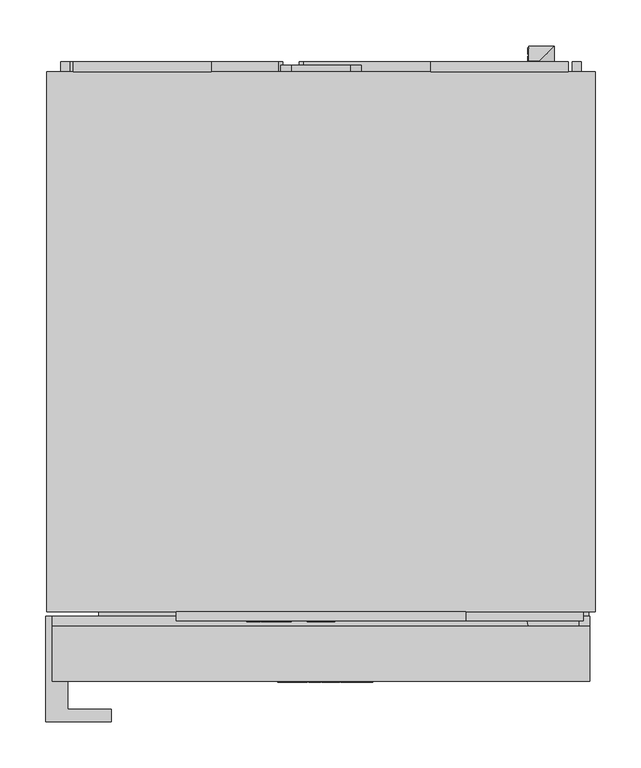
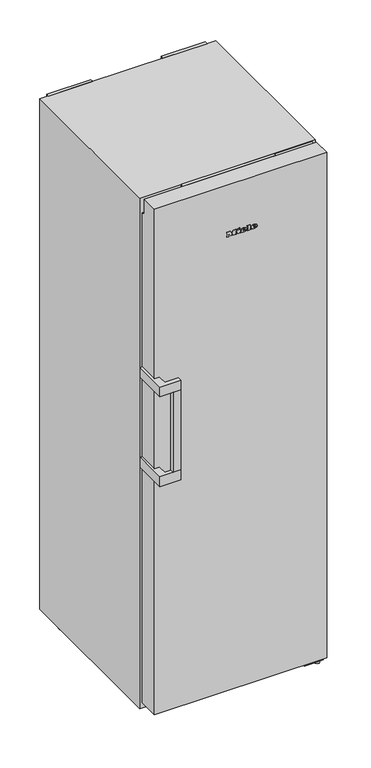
"""IFC4 building model written with IfcOpenShell, lengths in millimetres: proxy geometry, 12555680_CN_KS4783ED_BST : 36478353_CN_12555680_KS4783ED_BST."""

from ifc_helpers import new_model, si_unit, point, frame, frame_2d, origin, origin_with_axes, place, context, project, spatial, polyline, circle_curve, ellipse_curve, trimmed, segment, composite_curve, outline, extrude, faceted_brep, source, transform, mapped, element, save
from ifc_brep_helpers import plane_surface, cylinder_surface, revolved_surface, extruded_surface, advanced_brep


def specialty_equipment_43486b18(model_context):
    return source(origin(), model_context, "Body", "SolidModel", [
        extrude(outline(polyline([(15.0, -609.5), (-15.0, -609.5), (-15.0, -608.5), (15.0, -608.5), (15.0, -609.5)])), frame((0.0, 0.0, 1810.5), z_axis=(0.0, 0.0, 1.0), x_axis=(1.0, 0.0, 0.0)), (0.0, 0.0, 1.0), 31.0),
        extrude(outline(polyline([(105.0, -608.5), (-105.0, -608.5), (-105.0, -606.5), (105.0, -606.5), (105.0, -608.5)])), frame((0.0, 0.0, 1806.5), z_axis=(0.0, 0.0, 1.0), x_axis=(1.0, 0.0, 0.0)), (0.0, 0.0, 1.0), 39.0),
        faceted_brep([(157.5, -598.5, 1802.0), (157.5, -608.5, 1802.0), (-157.5, -608.5, 1802.0), (-157.5, -598.5, 1802.0), (157.5, -598.5, 1850.0), (-157.5, -598.5, 1850.0), (-157.5, -608.5, 1850.0), (157.5, -608.5, 1850.0), (-105.0, -608.5, 1845.5), (105.0, -608.5, 1845.5), (105.0, -608.5, 1806.5), (-105.0, -608.5, 1806.5), (105.0, -606.5, 1845.5), (-105.0, -606.5, 1845.5), (-105.0, -606.5, 1806.5), (105.0, -606.5, 1806.5)], [[[0, 1, 2, 3]], [[4, 5, 6, 7]], [[0, 3, 5, 4]], [[3, 2, 6, 5]], [[2, 1, 7, 6], [8, 9, 10, 11]], [[1, 0, 4, 7]], [[12, 13, 14, 15]], [[13, 12, 9, 8]], [[14, 13, 8, 11]], [[15, 14, 11, 10]], [[12, 15, 10, 9]]]),
        advanced_brep(
        [(44.846, -675.5, 1672.029), (44.846, -675.5, 1673.746), (56.219, -675.5, 1673.746), (36.431, -675.5, 1673.746), (41.106, -675.5, 1668.0), (55.93, -675.5, 1672.029), (50.796, -675.5, 1672.029), (46.75, -675.5, 1670.125), (44.846, -675.5, 1675.922), (44.846, -675.5, 1677.775), (47.753, -675.5, 1677.775), (47.753, -675.5, 1675.922), (44.846, -674.5, 1672.029), (46.75, -674.5, 1670.125), (50.796, -674.5, 1672.029), (55.93, -674.5, 1672.029), (41.106, -674.5, 1668.0), (36.431, -674.5, 1673.746), (56.219, -674.5, 1673.746), (44.846, -674.5, 1673.746), (44.846, -674.5, 1675.922), (47.753, -674.5, 1675.922), (47.753, -674.5, 1677.775), (44.846, -674.5, 1677.775)],
        [
            (0, 1),
            (1, 2),
            (2, 3, ellipse_curve(frame((46.325, -675.5, 1673.746), z_axis=(0.0, -1.0, 0.0), x_axis=(-1.0, 0.0, 0.0)), 9.894, 8.177)),
            (3, 4, circle_curve(frame((43.0100927, -675.5, 1674.324), z_axis=(0.0, -1.0, 0.0), x_axis=(0.0, 0.0, -1.0)), 6.6044337)),
            (4, 5, circle_curve(frame((46.1269364, -675.5, 1678.812), z_axis=(0.0, -1.0, 0.0), x_axis=(0.0, 0.0, -1.0)), 11.9209541)),
            (5, 6),
            (6, 7, circle_curve(frame((47.581, -675.5, 1673.61), z_axis=(0.0, 1.0, 0.0), x_axis=(0.0, 0.0, -1.0)), 3.5827065)),
            (7, 0, circle_curve(frame((46.75, -675.5, 1672.029), z_axis=(0.0, 1.0, 0.0), x_axis=(0.0, 0.0, -1.0)), 1.904)),
            (8, 9),
            (9, 10, circle_curve(frame((46.2995, -675.5, 1677.775), z_axis=(0.0, 1.0, 0.0), x_axis=(0.0, 0.0, -1.0)), 1.4535)),
            (10, 11),
            (11, 8),
            (12, 13, circle_curve(frame((46.75, -674.5, 1672.029), z_axis=(0.0, -1.0, 0.0), x_axis=(0.0, 0.0, -1.0)), 1.904)),
            (13, 14, circle_curve(frame((47.581, -674.5, 1673.61), z_axis=(0.0, -1.0, 0.0), x_axis=(0.0, 0.0, -1.0)), 3.5827065)),
            (14, 15),
            (15, 16, circle_curve(frame((46.1269364, -674.5, 1678.812), z_axis=(0.0, 1.0, 0.0), x_axis=(0.0, 0.0, -1.0)), 11.9209541)),
            (16, 17, circle_curve(frame((43.0100927, -674.5, 1674.324), z_axis=(0.0, 1.0, 0.0), x_axis=(0.0, 0.0, -1.0)), 6.6044337)),
            (17, 18, ellipse_curve(frame((46.325, -674.5, 1673.746), z_axis=(0.0, 1.0, 0.0), x_axis=(-1.0, 0.0, 0.0)), 9.894, 8.177)),
            (18, 19),
            (19, 12),
            (20, 21),
            (21, 22),
            (22, 23, circle_curve(frame((46.2995, -674.5, 1677.775), z_axis=(0.0, -1.0, 0.0), x_axis=(0.0, 0.0, -1.0)), 1.4535)),
            (23, 20),
            (0, 12),
            (19, 1),
            (18, 2),
            (5, 15),
            (14, 6),
            (17, 3),
            (13, 7),
            (16, 4),
            (8, 20),
            (23, 9),
            (22, 10),
            (21, 11),
        ],
        [
            plane_surface(frame((44.846, -675.5, 1673.746), z_axis=(0.0, -1.0, 0.0), x_axis=(0.0, 0.0, 1.0))),
            plane_surface(frame((44.846, -674.5, 1673.746), z_axis=(0.0, 1.0, 0.0), x_axis=(0.0, 0.0, -1.0))),
            plane_surface(frame((44.846, -675.5, 1672.029), z_axis=(1.0, 0.0, 0.0), x_axis=(0.0, 1.0, 0.0))),
            plane_surface(frame((44.846, -675.5, 1673.746), z_axis=(0.0, 0.0, -1.0), x_axis=(0.0, 1.0, 0.0))),
            plane_surface(frame((55.93, -675.5, 1672.029), z_axis=(0.0, 0.0, 1.0), x_axis=(0.0, 1.0, 0.0))),
            extruded_surface(trimmed(ellipse_curve(frame((46.325, -673.5, 1673.746), z_axis=(0.0, -1.0, 0.0), x_axis=(-1.0, 0.0, 0.0)), 9.894, 8.177), [point((56.219, -673.5, 1673.746))], [point((36.431, -673.5, 1673.746))], True, "CARTESIAN"), (0.0, -1.0, 0.0), 1.0),
            revolved_surface(polyline([(47.581, -674.5, 1670.0272934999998), (47.581, -675.5, 1670.0272934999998)]), (47.581, -674.5, 1673.61), (0.0, 1.0, 0.0)),
            revolved_surface(polyline([(46.75, -674.5, 1670.125), (46.75, -675.5, 1670.125)]), (46.75, -674.5, 1672.029), (0.0, 1.0, 0.0)),
            cylinder_surface(frame((43.0100927, -674.5, 1674.324), z_axis=(0.0, -1.0, 0.0), x_axis=(0.0, 0.0, -1.0)), 6.6044337),
            cylinder_surface(frame((46.1269364, -674.5, 1678.812), z_axis=(0.0, -1.0, 0.0), x_axis=(0.0, 0.0, -1.0)), 11.9209541),
            plane_surface(frame((44.846, -675.5, 1675.922), z_axis=(1.0, 0.0, 0.0), x_axis=(0.0, 1.0, 0.0))),
            revolved_surface(polyline([(46.2995, -674.5, 1676.3215), (46.2995, -675.5, 1676.3215)]), (46.2995, -674.5, 1677.775), (0.0, 1.0, 0.0)),
            plane_surface(frame((47.753, -675.5, 1677.775), z_axis=(-1.0, 0.0, 0.0), x_axis=(0.0, 1.0, 0.0))),
            plane_surface(frame((47.753, -675.5, 1675.922), z_axis=(0.0, 0.0, 1.0), x_axis=(0.0, 1.0, 0.0))),
        ],
        [
            (0, [[1, 2, 3, 4, 5, 6, 7, 8], [9, 10, 11, 12]]),
            (1, [[13, 14, 15, 16, 17, 18, 19, 20], [21, 22, 23, 24]]),
            (2, [[-1, 25, -20, 26]]),
            (3, [[-2, -26, -19, 27]]),
            (4, [[-6, 28, -15, 29]]),
            (5, [[-3, -27, -18, 30]]),
            (6, [[-7, -29, -14, 31]]),
            (7, [[-8, -31, -13, -25]]),
            (8, [[-4, -30, -17, 32]]),
            (9, [[-5, -32, -16, -28]]),
            (10, [[-9, 33, -24, 34]]),
            (11, [[-10, -34, -23, 35]]),
            (12, [[-11, -35, -22, 36]]),
            (13, [[-12, -36, -21, -33]]),
        ],
    ),
        advanced_brep(
        [(9.367, -675.5, 1672.029), (9.367, -675.5, 1673.746), (20.74, -675.5, 1673.746), (0.952, -675.5, 1673.746), (5.627, -675.5, 1668.0), (20.451, -675.5, 1672.029), (15.317, -675.5, 1672.029), (11.271, -675.5, 1670.125), (9.367, -675.5, 1675.922), (9.367, -675.5, 1677.775), (12.274, -675.5, 1677.775), (12.274, -675.5, 1675.922), (9.367, -674.5, 1672.029), (11.271, -674.5, 1670.125), (15.317, -674.5, 1672.029), (20.451, -674.5, 1672.029), (5.627, -674.5, 1668.0), (0.952, -674.5, 1673.746), (20.74, -674.5, 1673.746), (9.367, -674.5, 1673.746), (9.367, -674.5, 1675.922), (12.274, -674.5, 1675.922), (12.274, -674.5, 1677.775), (9.367, -674.5, 1677.775)],
        [
            (0, 1),
            (1, 2),
            (2, 3, ellipse_curve(frame((10.846, -675.5, 1673.746), z_axis=(0.0, -1.0, 0.0), x_axis=(-1.0, 0.0, 0.0)), 9.894, 8.177)),
            (3, 4, circle_curve(frame((7.5310927, -675.5, 1674.324), z_axis=(0.0, -1.0, 0.0), x_axis=(0.0, 0.0, -1.0)), 6.6044337)),
            (4, 5, circle_curve(frame((10.6479364, -675.5, 1678.812), z_axis=(0.0, -1.0, 0.0), x_axis=(0.0, 0.0, -1.0)), 11.9209541)),
            (5, 6),
            (6, 7, circle_curve(frame((12.102, -675.5, 1673.61), z_axis=(0.0, 1.0, 0.0), x_axis=(0.0, 0.0, -1.0)), 3.5827065)),
            (7, 0, circle_curve(frame((11.271, -675.5, 1672.029), z_axis=(0.0, 1.0, 0.0), x_axis=(0.0, 0.0, -1.0)), 1.904)),
            (8, 9),
            (9, 10, circle_curve(frame((10.8205, -675.5, 1677.775), z_axis=(0.0, 1.0, 0.0), x_axis=(0.0, 0.0, -1.0)), 1.4535)),
            (10, 11),
            (11, 8),
            (12, 13, circle_curve(frame((11.271, -674.5, 1672.029), z_axis=(0.0, -1.0, 0.0), x_axis=(0.0, 0.0, -1.0)), 1.904)),
            (13, 14, circle_curve(frame((12.102, -674.5, 1673.61), z_axis=(0.0, -1.0, 0.0), x_axis=(0.0, 0.0, -1.0)), 3.5827065)),
            (14, 15),
            (15, 16, circle_curve(frame((10.6479364, -674.5, 1678.812), z_axis=(0.0, 1.0, 0.0), x_axis=(0.0, 0.0, -1.0)), 11.9209541)),
            (16, 17, circle_curve(frame((7.5310927, -674.5, 1674.324), z_axis=(0.0, 1.0, 0.0), x_axis=(0.0, 0.0, -1.0)), 6.6044337)),
            (17, 18, ellipse_curve(frame((10.846, -674.5, 1673.746), z_axis=(0.0, 1.0, 0.0), x_axis=(-1.0, 0.0, 0.0)), 9.894, 8.177)),
            (18, 19),
            (19, 12),
            (20, 21),
            (21, 22),
            (22, 23, circle_curve(frame((10.8205, -674.5, 1677.775), z_axis=(0.0, -1.0, 0.0), x_axis=(0.0, 0.0, -1.0)), 1.4535)),
            (23, 20),
            (0, 12),
            (19, 1),
            (18, 2),
            (5, 15),
            (14, 6),
            (17, 3),
            (13, 7),
            (16, 4),
            (8, 20),
            (23, 9),
            (22, 10),
            (21, 11),
        ],
        [
            plane_surface(frame((9.367, -675.5, 1673.746), z_axis=(0.0, -1.0, 0.0), x_axis=(0.0, 0.0, 1.0))),
            plane_surface(frame((9.367, -674.5, 1673.746), z_axis=(0.0, 1.0, 0.0), x_axis=(0.0, 0.0, -1.0))),
            plane_surface(frame((9.367, -675.5, 1672.029), z_axis=(1.0, 0.0, 0.0), x_axis=(0.0, 1.0, 0.0))),
            plane_surface(frame((9.367, -675.5, 1673.746), z_axis=(0.0, 0.0, -1.0), x_axis=(0.0, 1.0, 0.0))),
            plane_surface(frame((20.451, -675.5, 1672.029), z_axis=(0.0, 0.0, 1.0), x_axis=(0.0, 1.0, 0.0))),
            extruded_surface(trimmed(ellipse_curve(frame((10.846, -673.5, 1673.746), z_axis=(0.0, -1.0, 0.0), x_axis=(-1.0, 0.0, 0.0)), 9.894, 8.177), [point((20.74, -673.5, 1673.746))], [point((0.952, -673.5, 1673.746))], True, "CARTESIAN"), (0.0, -1.0, 0.0), 1.0),
            revolved_surface(polyline([(12.102, -674.5, 1670.0272934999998), (12.102, -675.5, 1670.0272934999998)]), (12.102, -674.5, 1673.61), (0.0, 1.0, 0.0)),
            revolved_surface(polyline([(11.271, -674.5, 1670.125), (11.271, -675.5, 1670.125)]), (11.271, -674.5, 1672.029), (0.0, 1.0, 0.0)),
            cylinder_surface(frame((7.5310927, -674.5, 1674.324), z_axis=(0.0, -1.0, 0.0), x_axis=(0.0, 0.0, -1.0)), 6.6044337),
            cylinder_surface(frame((10.6479364, -674.5, 1678.812), z_axis=(0.0, -1.0, 0.0), x_axis=(0.0, 0.0, -1.0)), 11.9209541),
            plane_surface(frame((9.367, -675.5, 1675.922), z_axis=(1.0, 0.0, 0.0), x_axis=(0.0, 1.0, 0.0))),
            revolved_surface(polyline([(10.8205, -674.5, 1676.3215), (10.8205, -675.5, 1676.3215)]), (10.8205, -674.5, 1677.775), (0.0, 1.0, 0.0)),
            plane_surface(frame((12.274, -675.5, 1677.775), z_axis=(-1.0, 0.0, 0.0), x_axis=(0.0, 1.0, 0.0))),
            plane_surface(frame((12.274, -675.5, 1675.922), z_axis=(0.0, 0.0, 1.0), x_axis=(0.0, 1.0, 0.0))),
        ],
        [
            (0, [[1, 2, 3, 4, 5, 6, 7, 8], [9, 10, 11, 12]]),
            (1, [[13, 14, 15, 16, 17, 18, 19, 20], [21, 22, 23, 24]]),
            (2, [[-1, 25, -20, 26]]),
            (3, [[-2, -26, -19, 27]]),
            (4, [[-6, 28, -15, 29]]),
            (5, [[-3, -27, -18, 30]]),
            (6, [[-7, -29, -14, 31]]),
            (7, [[-8, -31, -13, -25]]),
            (8, [[-4, -30, -17, 32]]),
            (9, [[-5, -32, -16, -28]]),
            (10, [[-9, 33, -24, 34]]),
            (11, [[-10, -34, -23, 35]]),
            (12, [[-11, -35, -22, 36]]),
            (13, [[-12, -36, -21, -33]]),
        ],
    ),
        extrude(outline(polyline([(1683.997, -9.214), (1681.243, -7.922), (1683.929, -2.159), (1686.683, -3.434), (1683.997, -9.214)])), frame((0.0, -675.5, 0.0), z_axis=(0.0, 1.0, 0.0), x_axis=(0.0, 0.0, 1.0)), (0.0, 0.0, 1.0), 1.0),
        extrude(outline(polyline([(1680.869, -13.413), (1677.826, -13.413), (1677.826, -11.39), (1670.856, -11.39), (1670.856, -13.413), (1668.0, -13.413), (1668.0, 0.0), (1670.856, 0.0), (1670.856, -1.972), (1680.869, -1.972), (1680.869, -13.413)])), frame((0.0, -675.5, 0.0), z_axis=(0.0, 1.0, 0.0), x_axis=(0.0, 0.0, 1.0)), (0.0, 0.0, 1.0), 1.0),
        extrude(outline(polyline([(1682.229, 21.692), (1682.229, 23.732), (1670.856, 23.732), (1670.856, 21.692), (1668.0, 21.692), (1668.0, 35.479), (1670.856, 35.479), (1670.856, 33.388), (1685.0, 33.388), (1685.0, 21.692), (1682.229, 21.692)])), frame((0.0, -675.5, 0.0), z_axis=(0.0, 1.0, 0.0), x_axis=(0.0, 0.0, 1.0)), (0.0, 0.0, 1.0), 1.0),
        extrude(outline(polyline([(1682.229, -47.294), (1682.229, -45.237), (1670.856, -45.237), (1670.856, -47.294), (1668.0, -47.294), (1668.0, -39.814), (1670.856, -39.814), (1670.856, -41.854), (1678.0301247, -41.854), (1668.0, -34.255), (1678.4402223, -26.622), (1670.856, -26.622), (1670.856, -28.713), (1668.0, -28.713), (1668.0, -15.147), (1670.856, -15.147), (1670.856, -17.306), (1682.229, -17.306), (1682.229, -15.147), (1685.0, -15.147), (1685.0, -25.5), (1678.625, -30.464), (1685.0, -35.445), (1685.0, -47.294), (1682.229, -47.294)])), frame((0.0, -675.5, 0.0), z_axis=(0.0, 1.0, 0.0), x_axis=(0.0, 0.0, 1.0)), (0.0, 0.0, 1.0), 1.0),
        advanced_brep(
        [(-37.64, -609.5, 1828.896), (-37.64, -609.5, 1829.704), (-32.288, -609.5, 1829.704), (-41.6, -609.5, 1829.704), (-39.4, -609.5, 1827.0), (-32.424, -609.5, 1828.896), (-34.84, -609.5, 1828.896), (-36.744, -609.5, 1828.0), (-37.64, -609.5, 1830.728), (-37.64, -609.5, 1831.6), (-36.272, -609.5, 1831.6), (-36.272, -609.5, 1830.728), (-37.64, -608.5, 1828.896), (-36.744, -608.5, 1828.0), (-34.84, -608.5, 1828.896), (-32.424, -608.5, 1828.896), (-39.4, -608.5, 1827.0), (-41.6, -608.5, 1829.704), (-32.288, -608.5, 1829.704), (-37.64, -608.5, 1829.704), (-37.64, -608.5, 1830.728), (-36.272, -608.5, 1830.728), (-36.272, -608.5, 1831.6), (-37.64, -608.5, 1831.6)],
        [
            (0, 1),
            (1, 2),
            (2, 3, ellipse_curve(frame((-36.944, -609.5, 1829.704), z_axis=(0.0, -1.0, 0.0), x_axis=(-1.0, 0.0, 0.0)), 4.656, 3.848)),
            (3, 4, circle_curve(frame((-38.5039564, -609.5, 1829.976), z_axis=(0.0, -1.0, 0.0), x_axis=(0.0, 0.0, -1.0)), 3.1079688)),
            (4, 5, circle_curve(frame((-37.0372064, -609.5, 1832.088), z_axis=(0.0, -1.0, 0.0), x_axis=(0.0, 0.0, -1.0)), 5.6098607)),
            (5, 6),
            (6, 7, circle_curve(frame((-36.3529412, -609.5, 1829.64), z_axis=(0.0, 1.0, 0.0), x_axis=(0.0, 0.0, -1.0)), 1.6859795)),
            (7, 0, circle_curve(frame((-36.744, -609.5, 1828.896), z_axis=(0.0, 1.0, 0.0), x_axis=(0.0, 0.0, -1.0)), 0.896)),
            (8, 9),
            (9, 10, circle_curve(frame((-36.956, -609.5, 1831.6), z_axis=(0.0, 1.0, 0.0), x_axis=(0.0, 0.0, -1.0)), 0.684)),
            (10, 11),
            (11, 8),
            (12, 13, circle_curve(frame((-36.744, -608.5, 1828.896), z_axis=(0.0, -1.0, 0.0), x_axis=(0.0, 0.0, -1.0)), 0.896)),
            (13, 14, circle_curve(frame((-36.3529412, -608.5, 1829.64), z_axis=(0.0, -1.0, 0.0), x_axis=(0.0, 0.0, -1.0)), 1.6859795)),
            (14, 15),
            (15, 16, circle_curve(frame((-37.0372064, -608.5, 1832.088), z_axis=(0.0, 1.0, 0.0), x_axis=(0.0, 0.0, -1.0)), 5.6098607)),
            (16, 17, circle_curve(frame((-38.5039564, -608.5, 1829.976), z_axis=(0.0, 1.0, 0.0), x_axis=(0.0, 0.0, -1.0)), 3.1079688)),
            (17, 18, ellipse_curve(frame((-36.944, -608.5, 1829.704), z_axis=(0.0, 1.0, 0.0), x_axis=(-1.0, 0.0, 0.0)), 4.656, 3.848)),
            (18, 19),
            (19, 12),
            (20, 21),
            (21, 22),
            (22, 23, circle_curve(frame((-36.956, -608.5, 1831.6), z_axis=(0.0, -1.0, 0.0), x_axis=(0.0, 0.0, -1.0)), 0.684)),
            (23, 20),
            (0, 12),
            (19, 1),
            (18, 2),
            (5, 15),
            (14, 6),
            (17, 3),
            (13, 7),
            (16, 4),
            (8, 20),
            (23, 9),
            (22, 10),
            (21, 11),
        ],
        [
            plane_surface(frame((-37.64, -609.5, 1829.704), z_axis=(0.0, -1.0, 0.0), x_axis=(0.0, 0.0, 1.0))),
            plane_surface(frame((-37.64, -608.5, 1829.704), z_axis=(0.0, 1.0, 0.0), x_axis=(0.0, 0.0, -1.0))),
            plane_surface(frame((-37.64, -609.5, 1828.896), z_axis=(1.0, 0.0, 0.0), x_axis=(0.0, 1.0, 0.0))),
            plane_surface(frame((-37.64, -609.5, 1829.704), z_axis=(0.0, 0.0, -1.0), x_axis=(0.0, 1.0, 0.0))),
            plane_surface(frame((-32.424, -609.5, 1828.896), z_axis=(0.0, 0.0, 1.0), x_axis=(0.0, 1.0, 0.0))),
            extruded_surface(trimmed(ellipse_curve(frame((-36.944, -607.5, 1829.704), z_axis=(0.0, -1.0, 0.0), x_axis=(-1.0, 0.0, 0.0)), 4.656, 3.848), [point((-32.288, -607.5, 1829.704))], [point((-41.6, -607.5, 1829.704))], True, "CARTESIAN"), (0.0, -1.0, 0.0), 1.0),
            revolved_surface(polyline([(-36.3529412, -608.5, 1827.9540205), (-36.3529412, -609.5, 1827.9540205)]), (-36.3529412, -608.5, 1829.64), (0.0, 1.0, 0.0)),
            revolved_surface(polyline([(-36.744, -608.5, 1828.0), (-36.744, -609.5, 1828.0)]), (-36.744, -608.5, 1828.896), (0.0, 1.0, 0.0)),
            cylinder_surface(frame((-38.5039564, -608.5, 1829.976), z_axis=(0.0, -1.0, 0.0), x_axis=(0.0, 0.0, -1.0)), 3.1079688),
            cylinder_surface(frame((-37.0372064, -608.5, 1832.088), z_axis=(0.0, -1.0, 0.0), x_axis=(0.0, 0.0, -1.0)), 5.6098607),
            plane_surface(frame((-37.64, -609.5, 1830.728), z_axis=(1.0, 0.0, 0.0), x_axis=(0.0, 1.0, 0.0))),
            revolved_surface(polyline([(-36.956, -608.5, 1830.916), (-36.956, -609.5, 1830.916)]), (-36.956, -608.5, 1831.6), (0.0, 1.0, 0.0)),
            plane_surface(frame((-36.272, -609.5, 1831.6), z_axis=(-1.0, 0.0, 0.0), x_axis=(0.0, 1.0, 0.0))),
            plane_surface(frame((-36.272, -609.5, 1830.728), z_axis=(0.0, 0.0, 1.0), x_axis=(0.0, 1.0, 0.0))),
        ],
        [
            (0, [[1, 2, 3, 4, 5, 6, 7, 8], [9, 10, 11, 12]]),
            (1, [[13, 14, 15, 16, 17, 18, 19, 20], [21, 22, 23, 24]]),
            (2, [[-1, 25, -20, 26]]),
            (3, [[-2, -26, -19, 27]]),
            (4, [[-6, 28, -15, 29]]),
            (5, [[-3, -27, -18, 30]]),
            (6, [[-7, -29, -14, 31]]),
            (7, [[-8, -31, -13, -25]]),
            (8, [[-4, -30, -17, 32]]),
            (9, [[-5, -32, -16, -28]]),
            (10, [[-9, 33, -24, 34]]),
            (11, [[-10, -34, -23, 35]]),
            (12, [[-11, -35, -22, 36]]),
            (13, [[-12, -36, -21, -33]]),
        ],
    ),
        advanced_brep(
        [(-54.336, -609.5, 1828.896), (-54.336, -609.5, 1829.704), (-48.984, -609.5, 1829.704), (-58.296, -609.5, 1829.704), (-56.096, -609.5, 1827.0), (-49.12, -609.5, 1828.896), (-51.536, -609.5, 1828.896), (-53.44, -609.5, 1828.0), (-54.336, -609.5, 1830.728), (-54.336, -609.5, 1831.6), (-52.968, -609.5, 1831.6), (-52.968, -609.5, 1830.728), (-54.336, -608.5, 1828.896), (-53.44, -608.5, 1828.0), (-51.536, -608.5, 1828.896), (-49.12, -608.5, 1828.896), (-56.096, -608.5, 1827.0), (-58.296, -608.5, 1829.704), (-48.984, -608.5, 1829.704), (-54.336, -608.5, 1829.704), (-54.336, -608.5, 1830.728), (-52.968, -608.5, 1830.728), (-52.968, -608.5, 1831.6), (-54.336, -608.5, 1831.6)],
        [
            (0, 1),
            (1, 2),
            (2, 3, ellipse_curve(frame((-53.64, -609.5, 1829.704), z_axis=(0.0, -1.0, 0.0), x_axis=(-1.0, 0.0, 0.0)), 4.656, 3.848)),
            (3, 4, circle_curve(frame((-55.1999564, -609.5, 1829.976), z_axis=(0.0, -1.0, 0.0), x_axis=(0.0, 0.0, -1.0)), 3.1079688)),
            (4, 5, circle_curve(frame((-53.7332064, -609.5, 1832.088), z_axis=(0.0, -1.0, 0.0), x_axis=(0.0, 0.0, -1.0)), 5.6098607)),
            (5, 6),
            (6, 7, circle_curve(frame((-53.0489412, -609.5, 1829.64), z_axis=(0.0, 1.0, 0.0), x_axis=(0.0, 0.0, -1.0)), 1.6859795)),
            (7, 0, circle_curve(frame((-53.44, -609.5, 1828.896), z_axis=(0.0, 1.0, 0.0), x_axis=(0.0, 0.0, -1.0)), 0.896)),
            (8, 9),
            (9, 10, circle_curve(frame((-53.652, -609.5, 1831.6), z_axis=(0.0, 1.0, 0.0), x_axis=(0.0, 0.0, -1.0)), 0.684)),
            (10, 11),
            (11, 8),
            (12, 13, circle_curve(frame((-53.44, -608.5, 1828.896), z_axis=(0.0, -1.0, 0.0), x_axis=(0.0, 0.0, -1.0)), 0.896)),
            (13, 14, circle_curve(frame((-53.0489412, -608.5, 1829.64), z_axis=(0.0, -1.0, 0.0), x_axis=(0.0, 0.0, -1.0)), 1.6859795)),
            (14, 15),
            (15, 16, circle_curve(frame((-53.7332064, -608.5, 1832.088), z_axis=(0.0, 1.0, 0.0), x_axis=(0.0, 0.0, -1.0)), 5.6098607)),
            (16, 17, circle_curve(frame((-55.1999564, -608.5, 1829.976), z_axis=(0.0, 1.0, 0.0), x_axis=(0.0, 0.0, -1.0)), 3.1079688)),
            (17, 18, ellipse_curve(frame((-53.64, -608.5, 1829.704), z_axis=(0.0, 1.0, 0.0), x_axis=(-1.0, 0.0, 0.0)), 4.656, 3.848)),
            (18, 19),
            (19, 12),
            (20, 21),
            (21, 22),
            (22, 23, circle_curve(frame((-53.652, -608.5, 1831.6), z_axis=(0.0, -1.0, 0.0), x_axis=(0.0, 0.0, -1.0)), 0.684)),
            (23, 20),
            (0, 12),
            (19, 1),
            (18, 2),
            (5, 15),
            (14, 6),
            (17, 3),
            (13, 7),
            (16, 4),
            (8, 20),
            (23, 9),
            (22, 10),
            (21, 11),
        ],
        [
            plane_surface(frame((-54.336, -609.5, 1829.704), z_axis=(0.0, -1.0, 0.0), x_axis=(0.0, 0.0, 1.0))),
            plane_surface(frame((-54.336, -608.5, 1829.704), z_axis=(0.0, 1.0, 0.0), x_axis=(0.0, 0.0, -1.0))),
            plane_surface(frame((-54.336, -609.5, 1828.896), z_axis=(1.0, 0.0, 0.0), x_axis=(0.0, 1.0, 0.0))),
            plane_surface(frame((-54.336, -609.5, 1829.704), z_axis=(0.0, 0.0, -1.0), x_axis=(0.0, 1.0, 0.0))),
            plane_surface(frame((-49.12, -609.5, 1828.896), z_axis=(0.0, 0.0, 1.0), x_axis=(0.0, 1.0, 0.0))),
            extruded_surface(trimmed(ellipse_curve(frame((-53.64, -607.5, 1829.704), z_axis=(0.0, -1.0, 0.0), x_axis=(-1.0, 0.0, 0.0)), 4.656, 3.848), [point((-48.984, -607.5, 1829.704))], [point((-58.296, -607.5, 1829.704))], True, "CARTESIAN"), (0.0, -1.0, 0.0), 1.0),
            revolved_surface(polyline([(-53.0489412, -608.5, 1827.9540205), (-53.0489412, -609.5, 1827.9540205)]), (-53.0489412, -608.5, 1829.64), (0.0, 1.0, 0.0)),
            revolved_surface(polyline([(-53.44, -608.5, 1828.0), (-53.44, -609.5, 1828.0)]), (-53.44, -608.5, 1828.896), (0.0, 1.0, 0.0)),
            cylinder_surface(frame((-55.1999564, -608.5, 1829.976), z_axis=(0.0, -1.0, 0.0), x_axis=(0.0, 0.0, -1.0)), 3.1079688),
            cylinder_surface(frame((-53.7332064, -608.5, 1832.088), z_axis=(0.0, -1.0, 0.0), x_axis=(0.0, 0.0, -1.0)), 5.6098607),
            plane_surface(frame((-54.336, -609.5, 1830.728), z_axis=(1.0, 0.0, 0.0), x_axis=(0.0, 1.0, 0.0))),
            revolved_surface(polyline([(-53.652, -608.5, 1830.916), (-53.652, -609.5, 1830.916)]), (-53.652, -608.5, 1831.6), (0.0, 1.0, 0.0)),
            plane_surface(frame((-52.968, -609.5, 1831.6), z_axis=(-1.0, 0.0, 0.0), x_axis=(0.0, 1.0, 0.0))),
            plane_surface(frame((-52.968, -609.5, 1830.728), z_axis=(0.0, 0.0, 1.0), x_axis=(0.0, 1.0, 0.0))),
        ],
        [
            (0, [[1, 2, 3, 4, 5, 6, 7, 8], [9, 10, 11, 12]]),
            (1, [[13, 14, 15, 16, 17, 18, 19, 20], [21, 22, 23, 24]]),
            (2, [[-1, 25, -20, 26]]),
            (3, [[-2, -26, -19, 27]]),
            (4, [[-6, 28, -15, 29]]),
            (5, [[-3, -27, -18, 30]]),
            (6, [[-7, -29, -14, 31]]),
            (7, [[-8, -31, -13, -25]]),
            (8, [[-4, -30, -17, 32]]),
            (9, [[-5, -32, -16, -28]]),
            (10, [[-9, 33, -24, 34]]),
            (11, [[-10, -34, -23, 35]]),
            (12, [[-11, -35, -22, 36]]),
            (13, [[-12, -36, -21, -33]]),
        ],
    ),
        extrude(outline(polyline([(1834.528, -63.08), (1833.232, -62.472), (1834.496, -59.76), (1835.792, -60.36), (1834.528, -63.08)])), frame((0.0, -609.5, 0.0), z_axis=(0.0, 1.0, 0.0), x_axis=(0.0, 0.0, 1.0)), (0.0, 0.0, 1.0), 1.0),
        extrude(outline(polyline([(1833.056, -65.056), (1831.624, -65.056), (1831.624, -64.104), (1828.344, -64.104), (1828.344, -65.056), (1827.0, -65.056), (1827.0, -58.744), (1828.344, -58.744), (1828.344, -59.672), (1833.056, -59.672), (1833.056, -65.056)])), frame((0.0, -609.5, 0.0), z_axis=(0.0, 1.0, 0.0), x_axis=(0.0, 0.0, 1.0)), (0.0, 0.0, 1.0), 1.0),
        extrude(outline(polyline([(1833.696, -48.536), (1833.696, -47.576), (1828.344, -47.576), (1828.344, -48.536), (1827.0, -48.536), (1827.0, -42.048), (1828.344, -42.048), (1828.344, -43.032), (1835.0, -43.032), (1835.0, -48.536), (1833.696, -48.536)])), frame((0.0, -609.5, 0.0), z_axis=(0.0, 1.0, 0.0), x_axis=(0.0, 0.0, 1.0)), (0.0, 0.0, 1.0), 1.0),
        extrude(outline(polyline([(1833.696, -81.0), (1833.696, -80.032), (1828.344, -80.032), (1828.344, -81.0), (1827.0, -81.0), (1827.0, -77.48), (1828.344, -77.48), (1828.344, -78.44), (1831.7471247, -78.44), (1827.0, -74.864), (1831.8152223, -71.272), (1828.344, -71.272), (1828.344, -72.256), (1827.0, -72.256), (1827.0, -65.872), (1828.344, -65.872), (1828.344, -66.888), (1833.696, -66.888), (1833.696, -65.872), (1835.0, -65.872), (1835.0, -70.744), (1832.0, -73.08), (1835.0, -75.424), (1835.0, -81.0), (1833.696, -81.0)])), frame((0.0, -609.5, 0.0), z_axis=(0.0, 1.0, 0.0), x_axis=(0.0, 0.0, 1.0)), (0.0, 0.0, 1.0), 1.0),
        extrude(outline(polyline([(-63.7102801, 4.8264332), (-39.4378823, 4.8264332), (-46.2922883, 0.1735668), (-55.0031641, 0.1735668), (-63.7102801, 4.8264332)])), frame((-263.6000061, 0.0, 0.0), z_axis=(1.0, 0.0, 0.0), x_axis=(0.0, 1.0, 0.0)), (0.0, 0.0, 1.0), 15.1000061),
        extrude(outline(polyline([(-63.7102801, 4.8264332), (-39.4378823, 4.8264332), (-46.2922883, 0.1735668), (-55.0031641, 0.1735668), (-63.7102801, 4.8264332)])), frame((248.5, 0.0, 0.0), z_axis=(1.0, 0.0, 0.0), x_axis=(0.0, 1.0, 0.0)), (0.0, 0.0, 1.0), 15.1000061),
        extrude(outline(polyline([(15.8847229, 142.0), (8.5074627, 142.0), (8.5074627, 143.2557039), (14.6290191, 143.2557039), (14.6290191, 146.5519266), (8.9783516, 146.5519266), (8.9783516, 147.8076304), (14.6290191, 147.8076304), (14.6290191, 150.7899271), (8.6644256, 150.7899271), (8.6644256, 152.045631), (15.8847229, 152.045631), (15.8847229, 142.0)])), frame((225.2100653, 0.0, 0.0), z_axis=(1.0, 0.0, 0.0), x_axis=(0.0, 1.0, 0.0)), (0.0, 0.0, 1.0), 1.0),
        extrude(outline(polyline([(6.6239068, 142.0), (0.3453875, 142.0), (0.3453875, 143.2557039), (5.368203, 143.2557039), (5.368203, 152.045631), (6.6239068, 152.045631), (6.6239068, 142.0)])), frame((225.2100653, 0.0, 0.0), z_axis=(1.0, 0.0, 0.0), x_axis=(0.0, 1.0, 0.0)), (0.0, 0.0, 1.0), 1.0),
        advanced_brep(
        [(254.2100653, -10.5, 147.0), (238.2100653, -10.5, 147.0), (254.2100653, 17.5, 147.0), (238.2100653, 1.5, 147.0), (226.2100653, 17.5, 147.0), (226.2100653, 1.5, 147.0)],
        [
            (0, 1, circle_curve(frame((246.2100653, -10.5, 147.0), z_axis=(0.0, -1.0, 0.0), x_axis=(-1.0, 0.0, 0.0)), 8.0)),
            (1, 0, circle_curve(frame((246.2100653, -10.5, 147.0), z_axis=(0.0, -1.0, 0.0), x_axis=(-1.0, 0.0, 0.0)), 8.0)),
            (0, 2),
            (2, 3, ellipse_curve(frame((246.2100653, 9.5, 147.0), z_axis=(0.7071067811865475, -0.7071067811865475, 0.0), x_axis=(-0.7071067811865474, -0.7071067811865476, 0.0)), 11.3137085, 8.0)),
            (3, 1),
            (3, 2, ellipse_curve(frame((246.2100653, 9.5, 147.0), z_axis=(0.7071067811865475, -0.7071067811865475, 0.0), x_axis=(-0.7071067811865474, -0.7071067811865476, 0.0)), 11.3137085, 8.0)),
            (4, 5, circle_curve(frame((226.2100653, 9.5, 147.0), z_axis=(-1.0, 0.0, 0.0), x_axis=(0.0, -1.0, 0.0)), 8.0)),
            (5, 4, circle_curve(frame((226.2100653, 9.5, 147.0), z_axis=(-1.0, 0.0, 0.0), x_axis=(0.0, -1.0, 0.0)), 8.0)),
            (2, 4),
            (5, 3),
        ],
        [
            plane_surface(frame((246.2100653, -10.5, 0.0), z_axis=(0.0, -1.0, 0.0), x_axis=(0.0, 0.0, 1.0))),
            cylinder_surface(frame((246.2100653, -10.5, 147.0), z_axis=(0.0, -1.0, 0.0), x_axis=(-1.0, 0.0, 0.0)), 8.0),
            plane_surface(frame((226.2100653, 9.5, 0.0), z_axis=(-1.0, 0.0, 0.0), x_axis=(0.0, 0.0, 1.0))),
            cylinder_surface(frame((246.2100653, 9.5, 147.0), z_axis=(1.0, 0.0, 0.0), x_axis=(0.0, -1.0, 0.0)), 8.0),
        ],
        [
            (0, [[1, 2]]),
            (1, [[-1, 3, 4, 5]]),
            (1, [[-2, -5, 6, -3]]),
            (2, [[7, 8]]),
            (3, [[-4, 9, -8, 10]]),
            (3, [[-6, -10, -7, -9]]),
        ],
    ),
        extrude(outline(polyline([(-92.0864945, 0.0), (-110.9135055, 0.0), (-123.5, 15.0), (-79.5, 15.0), (-92.0864945, 0.0)])), frame((272.5, 0.0, 0.0), z_axis=(1.0, 0.0, 0.0), x_axis=(0.0, 1.0, 0.0)), (0.0, 0.0, 1.0), 16.0),
        extrude(outline(polyline([(-92.0864945, 0.0), (-110.9135055, 0.0), (-123.5, 15.0), (-79.5, 15.0), (-92.0864945, 0.0)])), frame((-288.5, 0.0, 0.0), z_axis=(1.0, 0.0, 0.0), x_axis=(0.0, 1.0, 0.0)), (0.0, 0.0, 1.0), 16.0),
        extrude(outline(polyline([(283.5, -10.5), (273.5, -10.5), (273.5, 0.5), (283.5, 0.5), (283.5, -10.5)])), frame((0.0, 0.0, 238.0), z_axis=(0.0, 0.0, 1.0), x_axis=(1.0, 0.0, 0.0)), (0.0, 0.0, 1.0), 20.0),
        extrude(outline(polyline([(-273.5, -10.5), (-283.5, -10.5), (-283.5, 0.5), (-273.5, 0.5), (-273.5, -10.5)])), frame((0.0, 0.0, 238.0), z_axis=(0.0, 0.0, 1.0), x_axis=(1.0, 0.0, 0.0)), (0.0, 0.0, 1.0), 20.0),
        extrude(outline(composite_curve([segment(polyline([(70.0, -18.5), (70.0, 148.0)]), True, "CONTINUOUS"), segment(trimmed(circle_curve(frame_2d((75.0, 148.0)), 5.0), [point((70.0, 148.0))], [point((75.0, 153.0))], False, "CARTESIAN"), True, "CONTINUOUS"), segment(polyline([(75.0, 153.0), (162.0, 153.0)]), True, "CONTINUOUS"), segment(trimmed(circle_curve(frame_2d((162.0, 148.0)), 5.0), [point((162.0, 153.0))], [point((167.0, 148.0))], False, "CARTESIAN"), True, "CONTINUOUS"), segment(polyline([(167.0, 148.0), (167.0, -18.5)]), True, "CONTINUOUS"), segment(trimmed(circle_curve(frame_2d((162.0, -18.5)), 5.0), [point((167.0, -18.5))], [point((162.0, -23.5))], False, "CARTESIAN"), True, "CONTINUOUS"), segment(polyline([(162.0, -23.5), (75.0, -23.5)]), True, "CONTINUOUS"), segment(trimmed(circle_curve(frame_2d((75.0, -18.5)), 5.0), [point((75.0, -23.5))], [point((70.0, -18.5))], False, "CARTESIAN"), True, "CONTINUOUS")], self_intersect=False)), frame((0.0, -10.5, 0.0), z_axis=(0.0, 1.0, 0.0), x_axis=(0.0, 0.0, 1.0)), (0.0, 0.0, 1.0), 11.0),
        extrude(outline(composite_curve([segment(polyline([(70.0, -269.5), (70.0, -46.5)]), True, "CONTINUOUS"), segment(trimmed(circle_curve(frame_2d((75.0, -46.5)), 5.0), [point((70.0, -46.5))], [point((75.0, -41.5))], False, "CARTESIAN"), True, "CONTINUOUS"), segment(polyline([(75.0, -41.5), (162.0, -41.5)]), True, "CONTINUOUS"), segment(trimmed(circle_curve(frame_2d((162.0, -46.5)), 5.0), [point((162.0, -41.5))], [point((167.0, -46.5))], False, "CARTESIAN"), True, "CONTINUOUS"), segment(polyline([(167.0, -46.5), (167.0, -269.5)]), True, "CONTINUOUS"), segment(trimmed(circle_curve(frame_2d((162.0, -269.5)), 5.0), [point((167.0, -269.5))], [point((162.0, -274.5))], False, "CARTESIAN"), True, "CONTINUOUS"), segment(polyline([(162.0, -274.5), (75.0, -274.5)]), True, "CONTINUOUS"), segment(trimmed(circle_curve(frame_2d((75.0, -269.5)), 5.0), [point((75.0, -274.5))], [point((70.0, -269.5))], False, "CARTESIAN"), True, "CONTINUOUS")], self_intersect=False)), frame((0.0, -10.5, 0.0), z_axis=(0.0, 1.0, 0.0), x_axis=(0.0, 0.0, 1.0)), (0.0, 0.0, 1.0), 11.0),
        extrude(outline(polyline([(269.5, -10.5), (119.5, -10.5), (119.5, 0.0), (269.5, 0.0), (269.5, -10.5)])), frame((0.0, 0.0, 1826.0), z_axis=(0.0, 0.0, 1.0), x_axis=(1.0, 0.0, 0.0)), (0.0, 0.0, 1.0), 24.0),
        extrude(outline(polyline([(-119.5, -10.5), (-269.5, -10.5), (-269.5, 0.0), (-119.5, 0.0), (-119.5, -10.5)])), frame((0.0, 0.0, 1826.0), z_axis=(0.0, 0.0, 1.0), x_axis=(1.0, 0.0, 0.0)), (0.0, 0.0, 1.0), 24.0),
        extrude(outline(polyline([(64.0, -159.5), (-64.0, -159.5), (-64.0, -71.5), (64.0, -71.5), (64.0, -159.5)])), frame((0.0, 0.0, 1636.0), z_axis=(0.0, 0.0, 1.0), x_axis=(1.0, 0.0, 0.0)), (0.0, 0.0, 1.0), 177.6535004),
        extrude(outline(polyline([(55.0, -521.5), (55.0, -575.5), (-55.0, -575.5), (-55.0, -521.5), (55.0, -521.5)])), frame((0.0, 0.0, 1759.0), z_axis=(0.0, 0.0, 1.0), x_axis=(1.0, 0.0, 0.0)), (0.0, 0.0, 1.0), 1.0),
        extrude(outline(composite_curve([segment(trimmed(circle_curve(frame_2d((-247.5, -583.5103704)), 10.0), [point((-257.5, -583.5103704))], [point((-237.5, -583.5103704))], False, "CARTESIAN"), True, "CONTINUOUS"), segment(trimmed(circle_curve(frame_2d((-247.5, -583.5103704)), 10.0), [point((-237.5, -583.5103704))], [point((-257.5, -583.5103704))], False, "CARTESIAN"), True, "CONTINUOUS")], self_intersect=False)), origin_with_axes(), (0.0, 0.0, 1.0), 15.0),
        extrude(outline(composite_curve([segment(trimmed(circle_curve(frame_2d((247.5, -583.4761218)), 10.0), [point((237.5, -583.4761218))], [point((257.5, -583.4761218))], False, "CARTESIAN"), True, "CONTINUOUS"), segment(trimmed(circle_curve(frame_2d((247.5, -583.4761218)), 10.0), [point((257.5, -583.4761218))], [point((237.5, -583.4761218))], False, "CARTESIAN"), True, "CONTINUOUS")], self_intersect=False)), origin_with_axes(), (0.0, 0.0, 1.0), 15.0),
        extrude(outline(polyline([(240.0, -290.5), (-240.0, -290.5), (-240.0, -71.5), (240.0, -71.5), (240.0, -290.5)])), frame((0.0, 0.0, 129.0), z_axis=(0.0, 0.0, 1.0), x_axis=(1.0, 0.0, 0.0)), (0.0, 0.0, 1.0), 190.0),
        extrude(outline(composite_curve([segment(trimmed(circle_curve(frame_2d((1162.0, -32.0)), 12.0), [point((1174.0, -32.0))], [point((1162.0, -44.0))], False, "CARTESIAN"), True, "CONTINUOUS"), segment(polyline([(1162.0, -44.0), (1138.0, -44.0)]), True, "CONTINUOUS"), segment(trimmed(circle_curve(frame_2d((1138.0, -32.0)), 12.0), [point((1138.0, -44.0))], [point((1126.0, -32.0))], False, "CARTESIAN"), True, "CONTINUOUS"), segment(polyline([(1126.0, -32.0), (1126.0, 32.0)]), True, "CONTINUOUS"), segment(trimmed(circle_curve(frame_2d((1138.0, 32.0)), 12.0), [point((1126.0, 32.0))], [point((1138.0, 44.0))], False, "CARTESIAN"), True, "CONTINUOUS"), segment(polyline([(1138.0, 44.0), (1162.0, 44.0)]), True, "CONTINUOUS"), segment(trimmed(circle_curve(frame_2d((1162.0, 32.0)), 12.0), [point((1162.0, 44.0))], [point((1174.0, 32.0))], False, "CARTESIAN"), True, "CONTINUOUS"), segment(polyline([(1174.0, 32.0), (1174.0, -32.0)]), True, "CONTINUOUS")], self_intersect=False)), frame((0.0, -10.5, 0.0), z_axis=(0.0, 1.0, 0.0), x_axis=(0.0, 0.0, 1.0)), (0.0, 0.0, 1.0), 7.0),
        extrude(outline(polyline([(272.5, -31.0417683), (272.5, -548.5), (-272.5, -548.5), (-272.5, -31.0417683), (272.5, -31.0417683)])), frame((0.0, 0.0, 4.8264332), z_axis=(0.0, 0.0, 1.0), x_axis=(1.0, 0.0, 0.0)), (0.0, 0.0, 1.0), 10.1735668),
        faceted_brep([(298.5, -10.5, 1850.0), (-298.5, -10.5, 1850.0), (-298.5, -598.5, 1850.0), (298.5, -598.5, 1850.0), (298.5, -10.5, 15.0), (298.5, -598.5, 15.0), (-298.5, -598.5, 15.0), (-298.5, -10.5, 15.0), (-240.0, -598.5, 1760.0), (240.0, -598.5, 1760.0), (240.0, -598.5, 129.0), (-240.0, -598.5, 129.0), (-240.0, -468.5, 1760.0), (240.0, -468.5, 1760.0), (240.0, -71.5, 129.0), (-240.0, -71.5, 129.0), (240.0, -71.5, 1813.6535004), (-240.0, -71.5, 1813.6535004), (-240.0, -468.5, 1813.6535004), (240.0, -468.5, 1813.6535004)], [[[0, 1, 2, 3]], [[4, 5, 6, 7]], [[1, 0, 4, 7]], [[2, 1, 7, 6]], [[3, 2, 6, 5], [8, 9, 10, 11]], [[0, 3, 5, 4]], [[9, 8, 12, 13]], [[14, 15, 11, 10]], [[15, 14, 16, 17]], [[15, 17, 18, 12, 8, 11]], [[16, 14, 10, 9, 13, 19]], [[19, 18, 17, 16]], [[18, 19, 13, 12]]]),
        extrude(outline(composite_curve([segment(trimmed(circle_curve(frame_2d((278.0122695, -643.5)), 8.0), [point((270.0122695, -643.5))], [point((286.0122695, -643.5))], False, "CARTESIAN"), True, "CONTINUOUS"), segment(trimmed(circle_curve(frame_2d((278.0122695, -643.5)), 8.0), [point((286.0122695, -643.5))], [point((270.0122695, -643.5))], False, "CARTESIAN"), True, "CONTINUOUS")], self_intersect=False)), frame((0.0, 0.0, 8.0), z_axis=(0.0, 0.0, 1.0), x_axis=(1.0, 0.0, 0.0)), (0.0, 0.0, 1.0), 11.0),
        extrude(outline(composite_curve([segment(trimmed(circle_curve(frame_2d((278.1965327, -643.5)), 10.0), [point((268.1965327, -643.5))], [point((288.1965327, -643.5))], False, "CARTESIAN"), True, "CONTINUOUS"), segment(trimmed(circle_curve(frame_2d((278.1965327, -643.5)), 10.0), [point((288.1965327, -643.5))], [point((268.1965327, -643.5))], False, "CARTESIAN"), True, "CONTINUOUS")], self_intersect=False)), frame((0.0, 0.0, 27.0), z_axis=(0.0, 0.0, 1.0), x_axis=(1.0, 0.0, 0.0)), (0.0, 0.0, 1.0), 4.1472173),
        extrude(outline(polyline([(292.5, -658.5093374), (228.3390096, -658.5093374), (228.3390096, -607.375773), (292.5, -607.375773), (292.5, -658.5093374)])), frame((0.0, 0.0, 31.1472173), z_axis=(0.0, 0.0, 1.0), x_axis=(1.0, 0.0, 0.0)), (0.0, 0.0, 1.0), 4.8527827),
        extrude(outline(polyline([(-598.5, 19.0), (-656.5, 19.0), (-656.5, 27.0), (-603.5, 27.0), (-603.5, 65.0), (-598.5, 65.0), (-598.5, 19.0)])), frame((227.5, 0.0, 0.0), z_axis=(1.0, 0.0, 0.0), x_axis=(0.0, 1.0, 0.0)), (0.0, 0.0, 1.0), 64.0),
        extrude(outline(polyline([(242.0, -603.5), (-242.0, -603.5), (-242.0, -598.5), (242.0, -598.5), (242.0, -603.5)])), frame((0.0, 0.0, 129.0), z_axis=(0.0, 0.0, 1.0), x_axis=(1.0, 0.0, 0.0)), (0.0, 0.0, 1.0), 1639.0),
        extrude(outline(polyline([(-299.5, -718.5), (-299.5, -603.5), (-292.5, -603.5), (-292.5, -674.5), (-275.5, -674.5), (-275.5, -704.5), (-228.5, -704.5), (-228.5, -718.5), (-299.5, -718.5)])), frame((0.0, 0.0, 885.9335354), z_axis=(0.0, 0.0, 1.0), x_axis=(1.0, 0.0, 0.0)), (0.0, 0.0, 1.0), 35.0443098),
        extrude(outline(polyline([(-299.5, -718.5), (-299.5, -603.5), (-292.5, -603.5), (-292.5, -674.5), (-275.5, -674.5), (-275.5, -704.5), (-228.5, -704.5), (-228.5, -718.5), (-299.5, -718.5)])), frame((0.0, 0.0, 1209.0221549), z_axis=(0.0, 0.0, 1.0), x_axis=(1.0, 0.0, 0.0)), (0.0, 0.0, 1.0), 35.0),
        extrude(outline(polyline([(-228.5, -718.5), (-254.5, -718.5), (-254.5, -704.5), (-228.5, -704.5), (-228.5, -718.5)])), frame((0.0, 0.0, 920.9778451), z_axis=(0.0, 0.0, 1.0), x_axis=(1.0, 0.0, 0.0)), (0.0, 0.0, 1.0), 288.0443098),
        extrude(outline(polyline([(233.3907627, -653.6644264), (224.7217479, -608.5), (280.684623, -608.5), (282.5, -653.6644264), (233.3907627, -653.6644264)])), frame((0.0, 0.0, 1817.6745089), z_axis=(0.0, 0.0, 1.0), x_axis=(1.0, 0.0, 0.0)), (0.0, 0.0, 1.0), 23.7898602),
        extrude(outline(polyline([(285.5, -608.5), (157.5, -608.5), (157.5, -598.5), (285.5, -598.5), (285.5, -608.5)])), frame((0.0, 0.0, 1801.0), z_axis=(0.0, 0.0, 1.0), x_axis=(1.0, 0.0, 0.0)), (0.0, 0.0, 1.0), 48.0),
        advanced_brep(
        [(292.5, -674.5, 1854.0), (-292.5, -674.5, 1854.0), (-292.5, -674.5, 36.0), (292.5, -674.5, 36.0), (292.5, -603.5, 36.0), (222.5, -603.5, 36.0), (222.5, -603.5, 66.0), (-222.5, -603.5, 66.0), (-222.5, -603.5, 36.0), (-292.5, -603.5, 36.0), (-292.5, -603.5, 1799.0), (292.5, -603.5, 1799.0), (292.5, -614.5, 1854.0), (-292.5, -614.5, 1854.0), (-292.5, -614.5, 1799.0), (-222.5, -644.0062261, 36.0), (222.5, -644.0062261, 36.0), (292.5, -614.5, 1799.0), (222.5, -617.5, 66.0), (-222.5, -617.5, 66.0), (192.5, -614.5, 1849.0), (192.5, -614.5, 1806.0), (285.5, -614.5, 1806.0), (285.5, -614.5, 1849.0), (192.5, -660.3426016, 1849.0), (285.5, -660.3426016, 1849.0), (285.5, -660.3426016, 1806.0), (192.5, -660.3426016, 1806.0)],
        [
            (0, 1),
            (1, 2),
            (2, 3),
            (3, 0),
            (4, 5),
            (5, 6),
            (6, 7),
            (7, 8),
            (8, 9),
            (9, 10),
            (10, 11),
            (11, 4),
            (0, 12),
            (12, 13),
            (13, 1),
            (13, 14),
            (14, 10),
            (9, 2),
            (8, 15),
            (15, 16),
            (16, 5),
            (4, 3),
            (11, 17),
            (17, 12),
            (18, 6),
            (16, 18, circle_curve(frame((222.5, -612.8834964, 35.2114633), z_axis=(-1.0, 0.0, 0.0), x_axis=(0.0, 1.0, 0.0)), 31.1327175)),
            (19, 15, circle_curve(frame((-222.5, -612.8834964, 35.2114633), z_axis=(1.0, 0.0, 0.0), x_axis=(0.0, 1.0, 0.0)), 31.1327175)),
            (7, 19),
            (19, 18),
            (17, 14),
            (20, 21),
            (21, 22),
            (22, 23),
            (23, 20),
            (24, 25),
            (25, 26),
            (26, 27),
            (27, 24),
            (27, 21),
            (20, 24),
            (26, 22),
            (25, 23),
        ],
        [
            plane_surface(frame((-292.5, -674.5, 1854.0), z_axis=(0.0, -1.0, 0.0), x_axis=(-1.0, 0.0, 0.0))),
            plane_surface(frame((-292.5, -603.5, 1854.0), z_axis=(0.0, 1.0, 0.0), x_axis=(1.0, 0.0, 0.0))),
            plane_surface(frame((292.5, -674.5, 1854.0), z_axis=(0.0, 0.0, 1.0), x_axis=(0.0, 1.0, 0.0))),
            plane_surface(frame((-292.5, -674.5, 1854.0), z_axis=(-1.0, 0.0, 0.0), x_axis=(0.0, 1.0, 0.0))),
            plane_surface(frame((-292.5, -674.5, 36.0), z_axis=(0.0, 0.0, -1.0), x_axis=(0.0, 1.0, 0.0))),
            plane_surface(frame((292.5, -674.5, 36.0), z_axis=(1.0, 0.0, 0.0), x_axis=(0.0, 1.0, 0.0))),
            plane_surface(frame((222.5, -581.7507789, 35.2114633), z_axis=(-1.0, 0.0, 0.0), x_axis=(0.0, 0.0, 1.0))),
            plane_surface(frame((-222.5, -581.7507789, 35.2114633), z_axis=(1.0, 0.0, 0.0), x_axis=(0.0, 0.0, -1.0))),
            revolved_surface(polyline([(222.5, -581.7507789, 35.2114633), (-222.5, -581.7507789, 35.2114633)]), (-222.5, -612.8834964, 35.2114633), (1.0, 0.0, 0.0)),
            plane_surface(frame((222.5, -603.5, 66.0), z_axis=(0.0, 0.0, -1.0), x_axis=(-1.0, 0.0, 0.0))),
            plane_surface(frame((292.5, -614.5, 1854.0), z_axis=(0.0, 1.0, 0.0), x_axis=(-1.0, 0.0, 0.0))),
            plane_surface(frame((292.5, -614.5, 1799.0), z_axis=(0.0, 0.0, 1.0), x_axis=(-1.0, 0.0, 0.0))),
            plane_surface(frame((192.5, -660.3426016, 1849.0), z_axis=(0.0, 1.0, 0.0), x_axis=(0.0, 0.0, -1.0))),
            plane_surface(frame((192.5, -660.3426016, 1849.0), z_axis=(1.0, 0.0, 0.0), x_axis=(0.0, 1.0, 0.0))),
            plane_surface(frame((192.5, -660.3426016, 1806.0), z_axis=(0.0, 0.0, 1.0), x_axis=(0.0, 1.0, 0.0))),
            plane_surface(frame((285.5, -660.3426016, 1806.0), z_axis=(-1.0, 0.0, 0.0), x_axis=(0.0, 1.0, 0.0))),
            plane_surface(frame((285.5, -660.3426016, 1849.0), z_axis=(0.0, 0.0, -1.0), x_axis=(0.0, 1.0, 0.0))),
        ],
        [
            (0, [[1, 2, 3, 4]]),
            (1, [[5, 6, 7, 8, 9, 10, 11, 12]]),
            (2, [[-1, 13, 14, 15]]),
            (3, [[-2, -15, 16, 17, -10, 18]]),
            (4, [[-3, -18, -9, 19, 20, 21, -5, 22]]),
            (5, [[-4, -22, -12, 23, 24, -13]]),
            (6, [[25, -6, -21, 26]]),
            (7, [[27, -19, -8, 28]]),
            (8, [[-26, -20, -27, 29]]),
            (9, [[-25, -29, -28, -7]]),
            (10, [[30, -16, -14, -24], [31, 32, 33, 34]]),
            (11, [[-30, -23, -11, -17]]),
            (12, [[35, 36, 37, 38]]),
            (13, [[-38, 39, -31, 40]]),
            (14, [[-37, 41, -32, -39]]),
            (15, [[-36, 42, -33, -41]]),
            (16, [[-35, -40, -34, -42]]),
        ],
    ),
    ])


if __name__ == "__main__":
    model = new_model("IFC4")
    model_context = context("Model", 3, world=origin())
    ifc_project = project(units=[si_unit("LENGTHUNIT", "METRE", prefix="MILLI")], contexts=[model_context])
    site = spatial("IfcSite", under=ifc_project)
    building = spatial("IfcBuilding", under=site)
    placement = place(None, origin())
    specialty_equipment_shape = specialty_equipment_43486b18(model_context)
    element("IfcBuildingElementProxy", 1, Name="12555680_CN_KS4783ED_BST : 36478353_CN_12555680_KS4783ED_BST", ObjectType="12555680_CN_KS4783ED_BST : 36478353_CN_12555680_KS4783ED_BST", at=placement, inside=building, context=model_context, shape_type="MappedRepresentation", body=[
        mapped(specialty_equipment_shape, transform((0.0, 0.0, 0.0), x_axis=(1.0, 0.0, 0.0), y_axis=(0.0, 1.0, 0.0), z_axis=(0.0, 0.0, 1.0))),
    ])
    save(model, "model.ifc")
